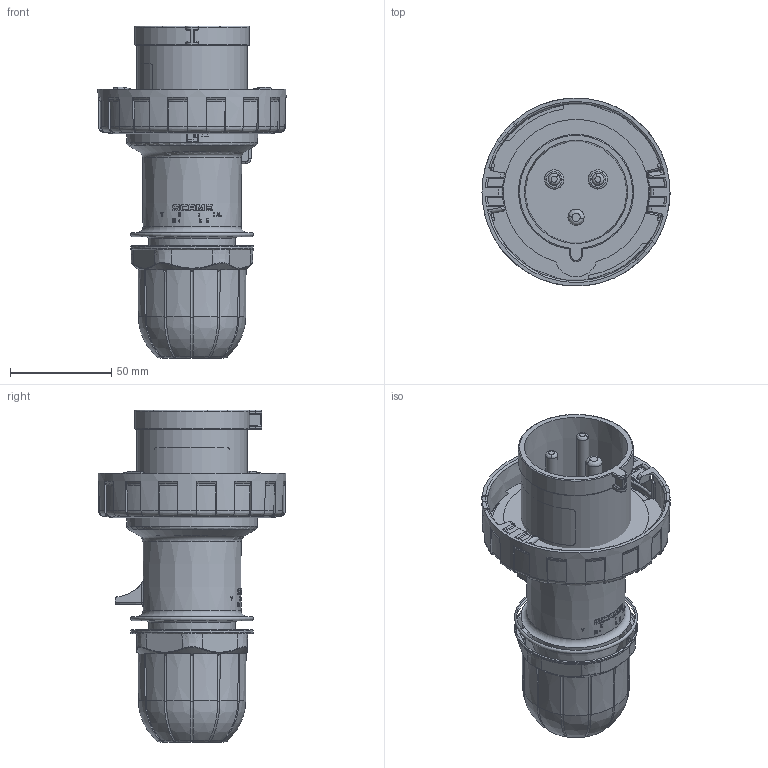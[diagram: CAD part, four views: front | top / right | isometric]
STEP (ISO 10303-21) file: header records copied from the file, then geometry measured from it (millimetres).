
FILE_DESCRIPTION(/* description */ (''),/* implementation_level */ '2;1');
FILE_NAME(/* name */ '4002081.stp',/* time_stamp */ '2017-04-11T23:11:01+02:00',/* author */ (''),/* organization */ (''),/* preprocessor_version */ 'ST-DEVELOPER v16',/* originating_system */ 'SIEMENS PLM Software NX 11.0',/* authorisation */ '');
FILE_SCHEMA (('AUTOMOTIVE_DESIGN { 1 0 10303 214 3 1 1 1 }'));
Products named in the file (1): 4002081_LINKEDEXT_jt
Bounding box: 92.96 x 92.86 x 164.1 mm (x, y, z)
Surface area: 81647.7 mm2 (no closed solid volume)
Topology: 0 solids, 70 shells, 493 faces, 2191 edges, 1724 vertices
Faces by surface type: bspline 160, plane 112, cone 88, cylinder 79, torus 36, sphere 17, revolution 1
Full cylindrical faces by diameter (mm): 4.9 x3, 6 x2, 8 x1, 16 x1, 49.5 x1, 54.5 x1, 60.7 x1, 77.3 x1
Entity records: 43906 total; most frequent: CARTESIAN_POINT 24651, ORIENTED_EDGE 3095, DIRECTION 2527, EDGE_CURVE 2131, VERTEX_POINT 1702, AXIS2_PLACEMENT_3D 1007, B_SPLINE_CURVE_WITH_KNOTS 946, PRESENTATION_STYLE_ASSIGNMENT 560
